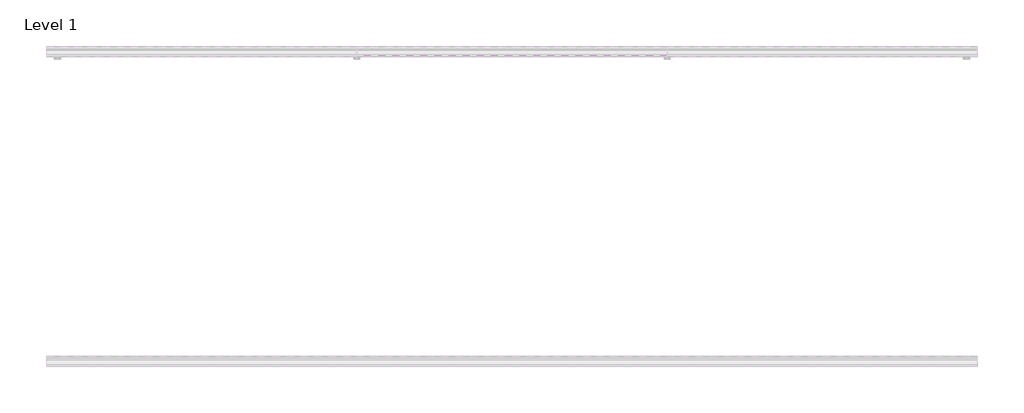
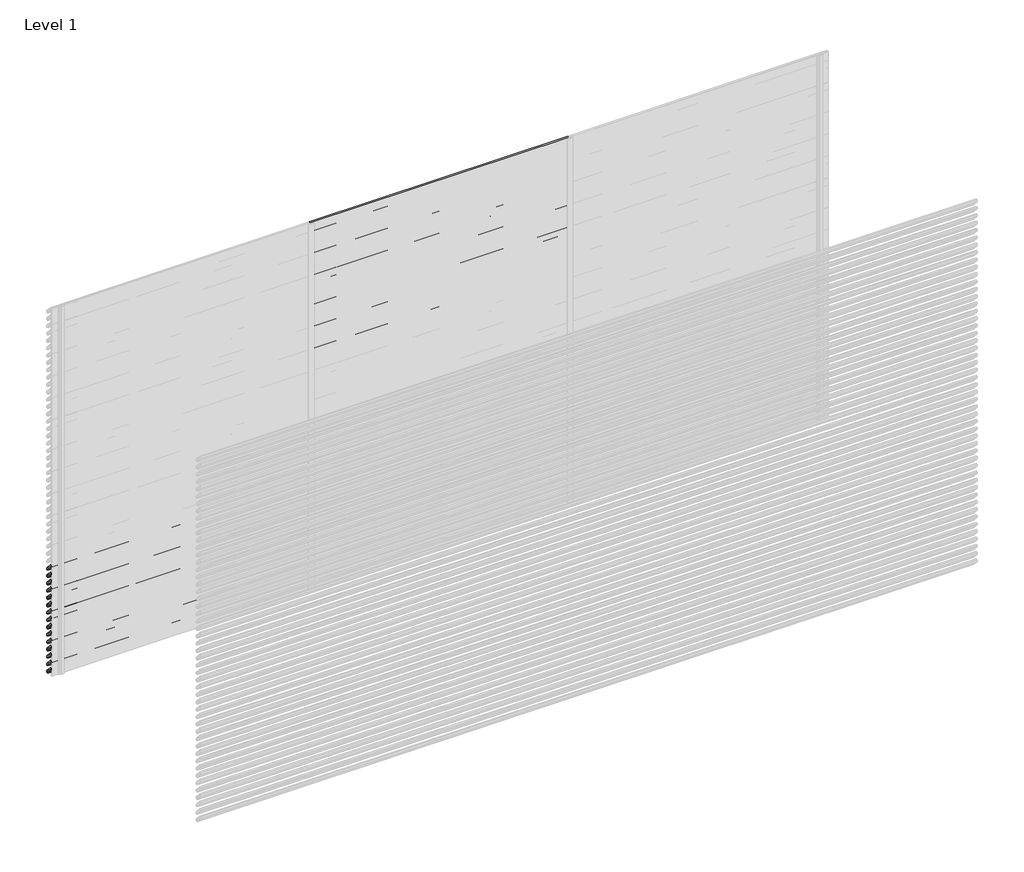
# One storey, part 97 of 153: 33 proxies.
"""IFC4 building model written with IfcOpenShell, lengths in millimetres."""

from ifc_helpers import new_model, si_unit, point, frame, frame_2d, origin, place, context, project, spatial, polyline, circle_curve, trimmed, segment, composite_curve, outline, extrude, element, save

model = new_model("IFC4")

# Units and contexts
model_context = context("Model", 3, world=origin())
ifc_project = project(units=[si_unit("LENGTHUNIT", "METRE", prefix="MILLI")], contexts=[model_context])

# Site, building, storey
site = spatial("IfcSite", under=ifc_project)
building = spatial("IfcBuilding", under=site)
storey = spatial("IfcBuildingStorey", under=building, Name="Level 1", Elevation=0.0)

# Proxies
placement = place(None, origin())
element("IfcBuildingElementProxy", 1, Name="Wall Sweeps", at=placement, inside=storey, context=model_context, shape_type="SweptSolid", body=[
    extrude(outline(composite_curve([segment(polyline([(43985.0540136, 900.0), (43999.874191, 898.7034025), (44049.0540136, 845.0102749), (44049.0540136, 833.6108187)]), True, "CONTINUOUS"), segment(trimmed(circle_curve(frame_2d((44045.7883652, 833.897153)), 3.2781774), [point((44049.0540136, 833.6108187))], [point((44046.4639442, 830.6893438))], False, "CARTESIAN"), True, "CONTINUOUS"), segment(polyline([(44046.4639442, 830.6893438), (44034.1895723, 831.6282758), (43985.0540136, 885.2730773), (43985.0540136, 900.0)]), True, "CONTINUOUS")], self_intersect=False), holes=[composite_curve([segment(polyline([(43999.1621773, 897.2599659), (43986.5540136, 898.3630372), (43986.5540136, 885.856213), (44034.8952036, 833.0786805), (44046.3312542, 832.2038762)]), True, "CONTINUOUS"), segment(trimmed(circle_curve(frame_2d((44045.7883652, 833.897153)), 1.7781774), [point((44046.3312542, 832.2038762))], [point((44047.5540136, 833.6864389))], True, "CARTESIAN"), True, "CONTINUOUS"), segment(polyline([(44047.5540136, 833.6864389), (44047.5540136, 844.4271392), (43999.1621773, 897.2599659)]), True, "CONTINUOUS")], self_intersect=False)]), frame((44966.6208097, 0.0, 0.0), z_axis=(1.0, 0.0, 0.0), x_axis=(0.0, 1.0, 0.0)), (0.0, 0.0, 1.0), 2000.0000001),
])
element("IfcBuildingElementProxy", 2, Name="Wall Sweeps", at=placement, inside=storey, context=model_context, shape_type="SweptSolid", body=[
    extrude(outline(composite_curve([segment(polyline([(43985.0540136, 840.0), (43999.874191, 838.7034025), (44049.0540136, 785.0102749), (44049.0540136, 773.6108187)]), True, "CONTINUOUS"), segment(trimmed(circle_curve(frame_2d((44045.7883652, 773.897153)), 3.2781774), [point((44049.0540136, 773.6108187))], [point((44046.4639442, 770.6893438))], False, "CARTESIAN"), True, "CONTINUOUS"), segment(polyline([(44046.4639442, 770.6893438), (44034.1895723, 771.6282758), (43985.0540136, 825.2730773), (43985.0540136, 840.0)]), True, "CONTINUOUS")], self_intersect=False), holes=[composite_curve([segment(polyline([(43999.1621773, 837.2599659), (43986.5540136, 838.3630372), (43986.5540136, 825.856213), (44034.8952036, 773.0786805), (44046.3312542, 772.2038762)]), True, "CONTINUOUS"), segment(trimmed(circle_curve(frame_2d((44045.7883652, 773.897153)), 1.7781774), [point((44046.3312542, 772.2038762))], [point((44047.5540136, 773.6864389))], True, "CARTESIAN"), True, "CONTINUOUS"), segment(polyline([(44047.5540136, 773.6864389), (44047.5540136, 784.4271392), (43999.1621773, 837.2599659)]), True, "CONTINUOUS")], self_intersect=False)]), frame((44966.6208097, 0.0, 0.0), z_axis=(1.0, 0.0, 0.0), x_axis=(0.0, 1.0, 0.0)), (0.0, 0.0, 1.0), 2000.0000001),
])
element("IfcBuildingElementProxy", 3, Name="Wall Sweeps", at=placement, inside=storey, context=model_context, shape_type="SweptSolid", body=[
    extrude(outline(composite_curve([segment(polyline([(43985.0540136, 780.0), (43999.874191, 778.7034025), (44049.0540136, 725.0102749), (44049.0540136, 713.6108187)]), True, "CONTINUOUS"), segment(trimmed(circle_curve(frame_2d((44045.7883652, 713.897153)), 3.2781774), [point((44049.0540136, 713.6108187))], [point((44046.4639442, 710.6893438))], False, "CARTESIAN"), True, "CONTINUOUS"), segment(polyline([(44046.4639442, 710.6893438), (44034.1895723, 711.6282758), (43985.0540136, 765.2730773), (43985.0540136, 780.0)]), True, "CONTINUOUS")], self_intersect=False), holes=[composite_curve([segment(polyline([(43999.1621773, 777.2599659), (43986.5540136, 778.3630372), (43986.5540136, 765.856213), (44034.8952036, 713.0786805), (44046.3312542, 712.2038762)]), True, "CONTINUOUS"), segment(trimmed(circle_curve(frame_2d((44045.7883652, 713.897153)), 1.7781774), [point((44046.3312542, 712.2038762))], [point((44047.5540136, 713.6864389))], True, "CARTESIAN"), True, "CONTINUOUS"), segment(polyline([(44047.5540136, 713.6864389), (44047.5540136, 724.4271392), (43999.1621773, 777.2599659)]), True, "CONTINUOUS")], self_intersect=False)]), frame((44966.6208097, 0.0, 0.0), z_axis=(1.0, 0.0, 0.0), x_axis=(0.0, 1.0, 0.0)), (0.0, 0.0, 1.0), 2000.0000001),
])
element("IfcBuildingElementProxy", 4, Name="Wall Sweeps", at=placement, inside=storey, context=model_context, shape_type="SweptSolid", body=[
    extrude(outline(composite_curve([segment(polyline([(43985.0540136, 720.0), (43999.874191, 718.7034025), (44049.0540136, 665.0102749), (44049.0540136, 653.6108187)]), True, "CONTINUOUS"), segment(trimmed(circle_curve(frame_2d((44045.7883652, 653.897153)), 3.2781774), [point((44049.0540136, 653.6108187))], [point((44046.4639442, 650.6893438))], False, "CARTESIAN"), True, "CONTINUOUS"), segment(polyline([(44046.4639442, 650.6893438), (44034.1895723, 651.6282758), (43985.0540136, 705.2730773), (43985.0540136, 720.0)]), True, "CONTINUOUS")], self_intersect=False), holes=[composite_curve([segment(polyline([(43999.1621773, 717.2599659), (43986.5540136, 718.3630372), (43986.5540136, 705.856213), (44034.8952036, 653.0786805), (44046.3312542, 652.2038762)]), True, "CONTINUOUS"), segment(trimmed(circle_curve(frame_2d((44045.7883652, 653.897153)), 1.7781774), [point((44046.3312542, 652.2038762))], [point((44047.5540136, 653.6864389))], True, "CARTESIAN"), True, "CONTINUOUS"), segment(polyline([(44047.5540136, 653.6864389), (44047.5540136, 664.4271392), (43999.1621773, 717.2599659)]), True, "CONTINUOUS")], self_intersect=False)]), frame((44966.6208097, 0.0, 0.0), z_axis=(1.0, 0.0, 0.0), x_axis=(0.0, 1.0, 0.0)), (0.0, 0.0, 1.0), 2000.0000001),
])
element("IfcBuildingElementProxy", 5, Name="Wall Sweeps", at=placement, inside=storey, context=model_context, shape_type="SweptSolid", body=[
    extrude(outline(composite_curve([segment(polyline([(43985.0540136, 660.0), (43999.874191, 658.7034025), (44049.0540136, 605.0102749), (44049.0540136, 593.6108187)]), True, "CONTINUOUS"), segment(trimmed(circle_curve(frame_2d((44045.7883652, 593.897153)), 3.2781774), [point((44049.0540136, 593.6108187))], [point((44046.4639442, 590.6893438))], False, "CARTESIAN"), True, "CONTINUOUS"), segment(polyline([(44046.4639442, 590.6893438), (44034.1895723, 591.6282758), (43985.0540136, 645.2730773), (43985.0540136, 660.0)]), True, "CONTINUOUS")], self_intersect=False), holes=[composite_curve([segment(polyline([(43999.1621773, 657.2599659), (43986.5540136, 658.3630372), (43986.5540136, 645.856213), (44034.8952036, 593.0786805), (44046.3312542, 592.2038762)]), True, "CONTINUOUS"), segment(trimmed(circle_curve(frame_2d((44045.7883652, 593.897153)), 1.7781774), [point((44046.3312542, 592.2038762))], [point((44047.5540136, 593.6864389))], True, "CARTESIAN"), True, "CONTINUOUS"), segment(polyline([(44047.5540136, 593.6864389), (44047.5540136, 604.4271392), (43999.1621773, 657.2599659)]), True, "CONTINUOUS")], self_intersect=False)]), frame((44966.6208097, 0.0, 0.0), z_axis=(1.0, 0.0, 0.0), x_axis=(0.0, 1.0, 0.0)), (0.0, 0.0, 1.0), 2000.0000001),
])
element("IfcBuildingElementProxy", 6, Name="Wall Sweeps", at=placement, inside=storey, context=model_context, shape_type="SweptSolid", body=[
    extrude(outline(composite_curve([segment(polyline([(43985.0540136, 600.0), (43999.874191, 598.7034025), (44049.0540136, 545.0102749), (44049.0540136, 533.6108187)]), True, "CONTINUOUS"), segment(trimmed(circle_curve(frame_2d((44045.7883652, 533.897153)), 3.2781774), [point((44049.0540136, 533.6108187))], [point((44046.4639442, 530.6893438))], False, "CARTESIAN"), True, "CONTINUOUS"), segment(polyline([(44046.4639442, 530.6893438), (44034.1895723, 531.6282758), (43985.0540136, 585.2730773), (43985.0540136, 600.0)]), True, "CONTINUOUS")], self_intersect=False), holes=[composite_curve([segment(polyline([(43999.1621773, 597.2599659), (43986.5540136, 598.3630372), (43986.5540136, 585.856213), (44034.8952036, 533.0786805), (44046.3312542, 532.2038762)]), True, "CONTINUOUS"), segment(trimmed(circle_curve(frame_2d((44045.7883652, 533.897153)), 1.7781774), [point((44046.3312542, 532.2038762))], [point((44047.5540136, 533.6864389))], True, "CARTESIAN"), True, "CONTINUOUS"), segment(polyline([(44047.5540136, 533.6864389), (44047.5540136, 544.4271392), (43999.1621773, 597.2599659)]), True, "CONTINUOUS")], self_intersect=False)]), frame((44966.6208097, 0.0, 0.0), z_axis=(1.0, 0.0, 0.0), x_axis=(0.0, 1.0, 0.0)), (0.0, 0.0, 1.0), 2000.0000001),
])
element("IfcBuildingElementProxy", 7, Name="Wall Sweeps", at=placement, inside=storey, context=model_context, shape_type="SweptSolid", body=[
    extrude(outline(composite_curve([segment(polyline([(43985.0540136, 540.0), (43999.874191, 538.7034025), (44049.0540136, 485.0102749), (44049.0540136, 473.6108187)]), True, "CONTINUOUS"), segment(trimmed(circle_curve(frame_2d((44045.7883652, 473.897153)), 3.2781774), [point((44049.0540136, 473.6108187))], [point((44046.4639442, 470.6893438))], False, "CARTESIAN"), True, "CONTINUOUS"), segment(polyline([(44046.4639442, 470.6893438), (44034.1895723, 471.6282758), (43985.0540136, 525.2730773), (43985.0540136, 540.0)]), True, "CONTINUOUS")], self_intersect=False), holes=[composite_curve([segment(polyline([(43999.1621773, 537.2599659), (43986.5540136, 538.3630372), (43986.5540136, 525.856213), (44034.8952036, 473.0786805), (44046.3312542, 472.2038762)]), True, "CONTINUOUS"), segment(trimmed(circle_curve(frame_2d((44045.7883652, 473.897153)), 1.7781774), [point((44046.3312542, 472.2038762))], [point((44047.5540136, 473.6864389))], True, "CARTESIAN"), True, "CONTINUOUS"), segment(polyline([(44047.5540136, 473.6864389), (44047.5540136, 484.4271392), (43999.1621773, 537.2599659)]), True, "CONTINUOUS")], self_intersect=False)]), frame((44966.6208097, 0.0, 0.0), z_axis=(1.0, 0.0, 0.0), x_axis=(0.0, 1.0, 0.0)), (0.0, 0.0, 1.0), 2000.0000001),
])
element("IfcBuildingElementProxy", 8, Name="Wall Sweeps", at=placement, inside=storey, context=model_context, shape_type="SweptSolid", body=[
    extrude(outline(composite_curve([segment(polyline([(43985.0540136, 480.0), (43999.874191, 478.7034025), (44049.0540136, 425.0102749), (44049.0540136, 413.6108187)]), True, "CONTINUOUS"), segment(trimmed(circle_curve(frame_2d((44045.7883652, 413.897153)), 3.2781774), [point((44049.0540136, 413.6108187))], [point((44046.4639442, 410.6893438))], False, "CARTESIAN"), True, "CONTINUOUS"), segment(polyline([(44046.4639442, 410.6893438), (44034.1895723, 411.6282758), (43985.0540136, 465.2730773), (43985.0540136, 480.0)]), True, "CONTINUOUS")], self_intersect=False), holes=[composite_curve([segment(polyline([(43999.1621773, 477.2599659), (43986.5540136, 478.3630372), (43986.5540136, 465.856213), (44034.8952036, 413.0786805), (44046.3312542, 412.2038762)]), True, "CONTINUOUS"), segment(trimmed(circle_curve(frame_2d((44045.7883652, 413.897153)), 1.7781774), [point((44046.3312542, 412.2038762))], [point((44047.5540136, 413.6864389))], True, "CARTESIAN"), True, "CONTINUOUS"), segment(polyline([(44047.5540136, 413.6864389), (44047.5540136, 424.4271392), (43999.1621773, 477.2599659)]), True, "CONTINUOUS")], self_intersect=False)]), frame((44966.6208097, 0.0, 0.0), z_axis=(1.0, 0.0, 0.0), x_axis=(0.0, 1.0, 0.0)), (0.0, 0.0, 1.0), 2000.0000001),
])
element("IfcBuildingElementProxy", 9, Name="Wall Sweeps", at=placement, inside=storey, context=model_context, shape_type="SweptSolid", body=[
    extrude(outline(composite_curve([segment(polyline([(43985.0540136, 420.0), (43999.874191, 418.7034025), (44049.0540136, 365.0102749), (44049.0540136, 353.6108187)]), True, "CONTINUOUS"), segment(trimmed(circle_curve(frame_2d((44045.7883652, 353.897153)), 3.2781774), [point((44049.0540136, 353.6108187))], [point((44046.4639442, 350.6893438))], False, "CARTESIAN"), True, "CONTINUOUS"), segment(polyline([(44046.4639442, 350.6893438), (44034.1895723, 351.6282758), (43985.0540136, 405.2730773), (43985.0540136, 420.0)]), True, "CONTINUOUS")], self_intersect=False), holes=[composite_curve([segment(polyline([(43999.1621773, 417.2599659), (43986.5540136, 418.3630372), (43986.5540136, 405.856213), (44034.8952036, 353.0786805), (44046.3312542, 352.2038762)]), True, "CONTINUOUS"), segment(trimmed(circle_curve(frame_2d((44045.7883652, 353.897153)), 1.7781774), [point((44046.3312542, 352.2038762))], [point((44047.5540136, 353.6864389))], True, "CARTESIAN"), True, "CONTINUOUS"), segment(polyline([(44047.5540136, 353.6864389), (44047.5540136, 364.4271392), (43999.1621773, 417.2599659)]), True, "CONTINUOUS")], self_intersect=False)]), frame((44966.6208097, 0.0, 0.0), z_axis=(1.0, 0.0, 0.0), x_axis=(0.0, 1.0, 0.0)), (0.0, 0.0, 1.0), 2000.0000001),
])
element("IfcBuildingElementProxy", 10, Name="Wall Sweeps", at=placement, inside=storey, context=model_context, shape_type="SweptSolid", body=[
    extrude(outline(composite_curve([segment(polyline([(43985.0540136, 360.0), (43999.874191, 358.7034025), (44049.0540136, 305.0102749), (44049.0540136, 293.6108187)]), True, "CONTINUOUS"), segment(trimmed(circle_curve(frame_2d((44045.7883652, 293.897153)), 3.2781774), [point((44049.0540136, 293.6108187))], [point((44046.4639442, 290.6893438))], False, "CARTESIAN"), True, "CONTINUOUS"), segment(polyline([(44046.4639442, 290.6893438), (44034.1895723, 291.6282758), (43985.0540136, 345.2730773), (43985.0540136, 360.0)]), True, "CONTINUOUS")], self_intersect=False), holes=[composite_curve([segment(polyline([(43999.1621773, 357.2599659), (43986.5540136, 358.3630372), (43986.5540136, 345.856213), (44034.8952036, 293.0786805), (44046.3312542, 292.2038762)]), True, "CONTINUOUS"), segment(trimmed(circle_curve(frame_2d((44045.7883652, 293.897153)), 1.7781774), [point((44046.3312542, 292.2038762))], [point((44047.5540136, 293.6864389))], True, "CARTESIAN"), True, "CONTINUOUS"), segment(polyline([(44047.5540136, 293.6864389), (44047.5540136, 304.4271392), (43999.1621773, 357.2599659)]), True, "CONTINUOUS")], self_intersect=False)]), frame((44966.6208097, 0.0, 0.0), z_axis=(1.0, 0.0, 0.0), x_axis=(0.0, 1.0, 0.0)), (0.0, 0.0, 1.0), 2000.0000001),
])
element("IfcBuildingElementProxy", 11, Name="Wall Sweeps", at=placement, inside=storey, context=model_context, shape_type="SweptSolid", body=[
    extrude(outline(composite_curve([segment(polyline([(43985.0540136, 300.0), (43999.874191, 298.7034025), (44049.0540136, 245.0102749), (44049.0540136, 233.6108187)]), True, "CONTINUOUS"), segment(trimmed(circle_curve(frame_2d((44045.7883652, 233.897153)), 3.2781774), [point((44049.0540136, 233.6108187))], [point((44046.4639442, 230.6893438))], False, "CARTESIAN"), True, "CONTINUOUS"), segment(polyline([(44046.4639442, 230.6893438), (44034.1895723, 231.6282758), (43985.0540136, 285.2730773), (43985.0540136, 300.0)]), True, "CONTINUOUS")], self_intersect=False), holes=[composite_curve([segment(polyline([(43999.1621773, 297.2599659), (43986.5540136, 298.3630372), (43986.5540136, 285.856213), (44034.8952036, 233.0786805), (44046.3312542, 232.2038762)]), True, "CONTINUOUS"), segment(trimmed(circle_curve(frame_2d((44045.7883652, 233.897153)), 1.7781774), [point((44046.3312542, 232.2038762))], [point((44047.5540136, 233.6864389))], True, "CARTESIAN"), True, "CONTINUOUS"), segment(polyline([(44047.5540136, 233.6864389), (44047.5540136, 244.4271392), (43999.1621773, 297.2599659)]), True, "CONTINUOUS")], self_intersect=False)]), frame((44966.6208097, 0.0, 0.0), z_axis=(1.0, 0.0, 0.0), x_axis=(0.0, 1.0, 0.0)), (0.0, 0.0, 1.0), 2000.0000001),
])
element("IfcBuildingElementProxy", 12, Name="Wall Sweeps", at=placement, inside=storey, context=model_context, shape_type="SweptSolid", body=[
    extrude(outline(composite_curve([segment(polyline([(43985.0540136, 240.0), (43999.874191, 238.7034025), (44049.0540136, 185.0102749), (44049.0540136, 173.6108187)]), True, "CONTINUOUS"), segment(trimmed(circle_curve(frame_2d((44045.7883652, 173.897153)), 3.2781774), [point((44049.0540136, 173.6108187))], [point((44046.4639442, 170.6893438))], False, "CARTESIAN"), True, "CONTINUOUS"), segment(polyline([(44046.4639442, 170.6893438), (44034.1895723, 171.6282758), (43985.0540136, 225.2730773), (43985.0540136, 240.0)]), True, "CONTINUOUS")], self_intersect=False), holes=[composite_curve([segment(polyline([(43999.1621773, 237.2599659), (43986.5540136, 238.3630372), (43986.5540136, 225.856213), (44034.8952036, 173.0786805), (44046.3312542, 172.2038762)]), True, "CONTINUOUS"), segment(trimmed(circle_curve(frame_2d((44045.7883652, 173.897153)), 1.7781774), [point((44046.3312542, 172.2038762))], [point((44047.5540136, 173.6864389))], True, "CARTESIAN"), True, "CONTINUOUS"), segment(polyline([(44047.5540136, 173.6864389), (44047.5540136, 184.4271392), (43999.1621773, 237.2599659)]), True, "CONTINUOUS")], self_intersect=False)]), frame((44966.6208097, 0.0, 0.0), z_axis=(1.0, 0.0, 0.0), x_axis=(0.0, 1.0, 0.0)), (0.0, 0.0, 1.0), 2000.0000001),
])
element("IfcBuildingElementProxy", 13, Name="Wall Sweeps", at=placement, inside=storey, context=model_context, shape_type="SweptSolid", body=[
    extrude(outline(composite_curve([segment(polyline([(43985.0540136, 180.0), (43999.874191, 178.7034025), (44049.0540136, 125.0102749), (44049.0540136, 113.6108187)]), True, "CONTINUOUS"), segment(trimmed(circle_curve(frame_2d((44045.7883652, 113.897153)), 3.2781774), [point((44049.0540136, 113.6108187))], [point((44046.4639442, 110.6893438))], False, "CARTESIAN"), True, "CONTINUOUS"), segment(polyline([(44046.4639442, 110.6893438), (44034.1895723, 111.6282758), (43985.0540136, 165.2730773), (43985.0540136, 180.0)]), True, "CONTINUOUS")], self_intersect=False), holes=[composite_curve([segment(polyline([(43999.1621773, 177.2599659), (43986.5540136, 178.3630372), (43986.5540136, 165.856213), (44034.8952036, 113.0786805), (44046.3312542, 112.2038762)]), True, "CONTINUOUS"), segment(trimmed(circle_curve(frame_2d((44045.7883652, 113.897153)), 1.7781774), [point((44046.3312542, 112.2038762))], [point((44047.5540136, 113.6864389))], True, "CARTESIAN"), True, "CONTINUOUS"), segment(polyline([(44047.5540136, 113.6864389), (44047.5540136, 124.4271392), (43999.1621773, 177.2599659)]), True, "CONTINUOUS")], self_intersect=False)]), frame((44966.6208097, 0.0, 0.0), z_axis=(1.0, 0.0, 0.0), x_axis=(0.0, 1.0, 0.0)), (0.0, 0.0, 1.0), 2000.0000001),
])
element("IfcBuildingElementProxy", 14, Name="Wall Sweeps", at=placement, inside=storey, context=model_context, shape_type="SweptSolid", body=[
    extrude(outline(composite_curve([segment(polyline([(43985.0540136, 120.0), (43999.874191, 118.7034025), (44049.0540136, 65.0102749), (44049.0540136, 53.6108187)]), True, "CONTINUOUS"), segment(trimmed(circle_curve(frame_2d((44045.7883652, 53.897153)), 3.2781774), [point((44049.0540136, 53.6108187))], [point((44046.4639442, 50.6893438))], False, "CARTESIAN"), True, "CONTINUOUS"), segment(polyline([(44046.4639442, 50.6893438), (44034.1895723, 51.6282758), (43985.0540136, 105.2730773), (43985.0540136, 120.0)]), True, "CONTINUOUS")], self_intersect=False), holes=[composite_curve([segment(polyline([(43999.1621773, 117.2599659), (43986.5540136, 118.3630372), (43986.5540136, 105.856213), (44034.8952036, 53.0786805), (44046.3312542, 52.2038762)]), True, "CONTINUOUS"), segment(trimmed(circle_curve(frame_2d((44045.7883652, 53.897153)), 1.7781774), [point((44046.3312542, 52.2038762))], [point((44047.5540136, 53.6864389))], True, "CARTESIAN"), True, "CONTINUOUS"), segment(polyline([(44047.5540136, 53.6864389), (44047.5540136, 64.4271392), (43999.1621773, 117.2599659)]), True, "CONTINUOUS")], self_intersect=False)]), frame((44966.6208097, 0.0, 0.0), z_axis=(1.0, 0.0, 0.0), x_axis=(0.0, 1.0, 0.0)), (0.0, 0.0, 1.0), 2000.0000001),
])
element("IfcBuildingElementProxy", 15, Name="Wall Sweeps", at=placement, inside=storey, context=model_context, shape_type="SweptSolid", body=[
    extrude(outline(composite_curve([segment(polyline([(43985.0540136, 60.0), (43999.874191, 58.7034025), (44049.0540136, 5.0102749), (44049.0540136, -6.3891813)]), True, "CONTINUOUS"), segment(trimmed(circle_curve(frame_2d((44045.7883652, -6.102847)), 3.2781774), [point((44049.0540136, -6.3891813))], [point((44046.4639442, -9.3106562))], False, "CARTESIAN"), True, "CONTINUOUS"), segment(polyline([(44046.4639442, -9.3106562), (44034.1895723, -8.3717242), (43985.0540136, 45.2730773), (43985.0540136, 60.0)]), True, "CONTINUOUS")], self_intersect=False), holes=[composite_curve([segment(polyline([(43999.1621773, 57.2599659), (43986.5540136, 58.3630372), (43986.5540136, 45.856213), (44034.8952036, -6.9213195), (44046.3312542, -7.7961238)]), True, "CONTINUOUS"), segment(trimmed(circle_curve(frame_2d((44045.7883652, -6.102847)), 1.7781774), [point((44046.3312542, -7.7961238))], [point((44047.5540136, -6.3135611))], True, "CARTESIAN"), True, "CONTINUOUS"), segment(polyline([(44047.5540136, -6.3135611), (44047.5540136, 4.4271392), (43999.1621773, 57.2599659)]), True, "CONTINUOUS")], self_intersect=False)]), frame((44966.6208097, 0.0, 0.0), z_axis=(1.0, 0.0, 0.0), x_axis=(0.0, 1.0, 0.0)), (0.0, 0.0, 1.0), 2000.0000001),
])
element("IfcBuildingElementProxy", 16, Name="Wall Sweeps", at=placement, inside=storey, context=model_context, shape_type="SweptSolid", body=[
    extrude(outline(composite_curve([segment(polyline([(43985.0540136, 3000.0), (43999.874191, 2998.7034025), (44049.0540136, 2945.0102749), (44049.0540136, 2933.6108187)]), True, "CONTINUOUS"), segment(trimmed(circle_curve(frame_2d((44045.7883652, 2933.897153)), 3.2781774), [point((44049.0540136, 2933.6108187))], [point((44046.4639442, 2930.6893438))], False, "CARTESIAN"), True, "CONTINUOUS"), segment(polyline([(44046.4639442, 2930.6893438), (44034.1895723, 2931.6282758), (43985.0540136, 2985.2730773), (43985.0540136, 3000.0)]), True, "CONTINUOUS")], self_intersect=False), holes=[composite_curve([segment(polyline([(43999.1621773, 2997.2599659), (43986.5540136, 2998.3630372), (43986.5540136, 2985.856213), (44034.8952036, 2933.0786805), (44046.3312542, 2932.2038762)]), True, "CONTINUOUS"), segment(trimmed(circle_curve(frame_2d((44045.7883652, 2933.897153)), 1.7781774), [point((44046.3312542, 2932.2038762))], [point((44047.5540136, 2933.6864389))], True, "CARTESIAN"), True, "CONTINUOUS"), segment(polyline([(44047.5540136, 2933.6864389), (44047.5540136, 2944.4271392), (43999.1621773, 2997.2599659)]), True, "CONTINUOUS")], self_intersect=False)]), frame((46966.6208098, 0.0, 0.0), z_axis=(1.0, 0.0, 0.0), x_axis=(0.0, 1.0, 0.0)), (0.0, 0.0, 1.0), 1999.9999998),
])
element("IfcBuildingElementProxy", 17, Name="Wall Sweeps", at=placement, inside=storey, context=model_context, shape_type="SweptSolid", body=[
    extrude(outline(composite_curve([segment(polyline([(43985.0540136, 2940.0), (43999.874191, 2938.7034025), (44049.0540136, 2885.0102749), (44049.0540136, 2873.6108187)]), True, "CONTINUOUS"), segment(trimmed(circle_curve(frame_2d((44045.7883652, 2873.897153)), 3.2781774), [point((44049.0540136, 2873.6108187))], [point((44046.4639442, 2870.6893438))], False, "CARTESIAN"), True, "CONTINUOUS"), segment(polyline([(44046.4639442, 2870.6893438), (44034.1895723, 2871.6282758), (43985.0540136, 2925.2730773), (43985.0540136, 2940.0)]), True, "CONTINUOUS")], self_intersect=False), holes=[composite_curve([segment(polyline([(43999.1621773, 2937.2599659), (43986.5540136, 2938.3630372), (43986.5540136, 2925.856213), (44034.8952036, 2873.0786805), (44046.3312542, 2872.2038762)]), True, "CONTINUOUS"), segment(trimmed(circle_curve(frame_2d((44045.7883652, 2873.897153)), 1.7781774), [point((44046.3312542, 2872.2038762))], [point((44047.5540136, 2873.6864389))], True, "CARTESIAN"), True, "CONTINUOUS"), segment(polyline([(44047.5540136, 2873.6864389), (44047.5540136, 2884.4271392), (43999.1621773, 2937.2599659)]), True, "CONTINUOUS")], self_intersect=False)]), frame((46966.6208098, 0.0, 0.0), z_axis=(1.0, 0.0, 0.0), x_axis=(0.0, 1.0, 0.0)), (0.0, 0.0, 1.0), 1999.9999998),
])
element("IfcBuildingElementProxy", 18, Name="Wall Sweeps", at=placement, inside=storey, context=model_context, shape_type="SweptSolid", body=[
    extrude(outline(composite_curve([segment(polyline([(43985.0540136, 2880.0), (43999.874191, 2878.7034025), (44049.0540136, 2825.0102749), (44049.0540136, 2813.6108187)]), True, "CONTINUOUS"), segment(trimmed(circle_curve(frame_2d((44045.7883652, 2813.897153)), 3.2781774), [point((44049.0540136, 2813.6108187))], [point((44046.4639442, 2810.6893438))], False, "CARTESIAN"), True, "CONTINUOUS"), segment(polyline([(44046.4639442, 2810.6893438), (44034.1895723, 2811.6282758), (43985.0540136, 2865.2730773), (43985.0540136, 2880.0)]), True, "CONTINUOUS")], self_intersect=False), holes=[composite_curve([segment(polyline([(43999.1621773, 2877.2599659), (43986.5540136, 2878.3630372), (43986.5540136, 2865.856213), (44034.8952036, 2813.0786805), (44046.3312542, 2812.2038762)]), True, "CONTINUOUS"), segment(trimmed(circle_curve(frame_2d((44045.7883652, 2813.897153)), 1.7781774), [point((44046.3312542, 2812.2038762))], [point((44047.5540136, 2813.6864389))], True, "CARTESIAN"), True, "CONTINUOUS"), segment(polyline([(44047.5540136, 2813.6864389), (44047.5540136, 2824.4271392), (43999.1621773, 2877.2599659)]), True, "CONTINUOUS")], self_intersect=False)]), frame((46966.6208098, 0.0, 0.0), z_axis=(1.0, 0.0, 0.0), x_axis=(0.0, 1.0, 0.0)), (0.0, 0.0, 1.0), 1999.9999998),
])
element("IfcBuildingElementProxy", 19, Name="Wall Sweeps", at=placement, inside=storey, context=model_context, shape_type="SweptSolid", body=[
    extrude(outline(composite_curve([segment(polyline([(43985.0540136, 2820.0), (43999.874191, 2818.7034025), (44049.0540136, 2765.0102749), (44049.0540136, 2753.6108187)]), True, "CONTINUOUS"), segment(trimmed(circle_curve(frame_2d((44045.7883652, 2753.897153)), 3.2781774), [point((44049.0540136, 2753.6108187))], [point((44046.4639442, 2750.6893438))], False, "CARTESIAN"), True, "CONTINUOUS"), segment(polyline([(44046.4639442, 2750.6893438), (44034.1895723, 2751.6282758), (43985.0540136, 2805.2730773), (43985.0540136, 2820.0)]), True, "CONTINUOUS")], self_intersect=False), holes=[composite_curve([segment(polyline([(43999.1621773, 2817.2599659), (43986.5540136, 2818.3630372), (43986.5540136, 2805.856213), (44034.8952036, 2753.0786805), (44046.3312542, 2752.2038762)]), True, "CONTINUOUS"), segment(trimmed(circle_curve(frame_2d((44045.7883652, 2753.897153)), 1.7781774), [point((44046.3312542, 2752.2038762))], [point((44047.5540136, 2753.6864389))], True, "CARTESIAN"), True, "CONTINUOUS"), segment(polyline([(44047.5540136, 2753.6864389), (44047.5540136, 2764.4271392), (43999.1621773, 2817.2599659)]), True, "CONTINUOUS")], self_intersect=False)]), frame((46966.6208098, 0.0, 0.0), z_axis=(1.0, 0.0, 0.0), x_axis=(0.0, 1.0, 0.0)), (0.0, 0.0, 1.0), 1999.9999998),
])
element("IfcBuildingElementProxy", 20, Name="Wall Sweeps", at=placement, inside=storey, context=model_context, shape_type="SweptSolid", body=[
    extrude(outline(composite_curve([segment(polyline([(43985.0540136, 2760.0), (43999.874191, 2758.7034025), (44049.0540136, 2705.0102749), (44049.0540136, 2693.6108187)]), True, "CONTINUOUS"), segment(trimmed(circle_curve(frame_2d((44045.7883652, 2693.897153)), 3.2781774), [point((44049.0540136, 2693.6108187))], [point((44046.4639442, 2690.6893438))], False, "CARTESIAN"), True, "CONTINUOUS"), segment(polyline([(44046.4639442, 2690.6893438), (44034.1895723, 2691.6282758), (43985.0540136, 2745.2730773), (43985.0540136, 2760.0)]), True, "CONTINUOUS")], self_intersect=False), holes=[composite_curve([segment(polyline([(43999.1621773, 2757.2599659), (43986.5540136, 2758.3630372), (43986.5540136, 2745.856213), (44034.8952036, 2693.0786805), (44046.3312542, 2692.2038762)]), True, "CONTINUOUS"), segment(trimmed(circle_curve(frame_2d((44045.7883652, 2693.897153)), 1.7781774), [point((44046.3312542, 2692.2038762))], [point((44047.5540136, 2693.6864389))], True, "CARTESIAN"), True, "CONTINUOUS"), segment(polyline([(44047.5540136, 2693.6864389), (44047.5540136, 2704.4271392), (43999.1621773, 2757.2599659)]), True, "CONTINUOUS")], self_intersect=False)]), frame((46966.6208098, 0.0, 0.0), z_axis=(1.0, 0.0, 0.0), x_axis=(0.0, 1.0, 0.0)), (0.0, 0.0, 1.0), 1999.9999998),
])
element("IfcBuildingElementProxy", 21, Name="Wall Sweeps", at=placement, inside=storey, context=model_context, shape_type="SweptSolid", body=[
    extrude(outline(composite_curve([segment(polyline([(43985.0540136, 2700.0), (43999.874191, 2698.7034025), (44049.0540136, 2645.0102749), (44049.0540136, 2633.6108187)]), True, "CONTINUOUS"), segment(trimmed(circle_curve(frame_2d((44045.7883652, 2633.897153)), 3.2781774), [point((44049.0540136, 2633.6108187))], [point((44046.4639442, 2630.6893438))], False, "CARTESIAN"), True, "CONTINUOUS"), segment(polyline([(44046.4639442, 2630.6893438), (44034.1895723, 2631.6282758), (43985.0540136, 2685.2730773), (43985.0540136, 2700.0)]), True, "CONTINUOUS")], self_intersect=False), holes=[composite_curve([segment(polyline([(43999.1621773, 2697.2599659), (43986.5540136, 2698.3630372), (43986.5540136, 2685.856213), (44034.8952036, 2633.0786805), (44046.3312542, 2632.2038762)]), True, "CONTINUOUS"), segment(trimmed(circle_curve(frame_2d((44045.7883652, 2633.897153)), 1.7781774), [point((44046.3312542, 2632.2038762))], [point((44047.5540136, 2633.6864389))], True, "CARTESIAN"), True, "CONTINUOUS"), segment(polyline([(44047.5540136, 2633.6864389), (44047.5540136, 2644.4271392), (43999.1621773, 2697.2599659)]), True, "CONTINUOUS")], self_intersect=False)]), frame((46966.6208098, 0.0, 0.0), z_axis=(1.0, 0.0, 0.0), x_axis=(0.0, 1.0, 0.0)), (0.0, 0.0, 1.0), 1999.9999998),
])
element("IfcBuildingElementProxy", 22, Name="Wall Sweeps", at=placement, inside=storey, context=model_context, shape_type="SweptSolid", body=[
    extrude(outline(composite_curve([segment(polyline([(43985.0540136, 2640.0), (43999.874191, 2638.7034025), (44049.0540136, 2585.0102749), (44049.0540136, 2573.6108187)]), True, "CONTINUOUS"), segment(trimmed(circle_curve(frame_2d((44045.7883652, 2573.897153)), 3.2781774), [point((44049.0540136, 2573.6108187))], [point((44046.4639442, 2570.6893438))], False, "CARTESIAN"), True, "CONTINUOUS"), segment(polyline([(44046.4639442, 2570.6893438), (44034.1895723, 2571.6282758), (43985.0540136, 2625.2730773), (43985.0540136, 2640.0)]), True, "CONTINUOUS")], self_intersect=False), holes=[composite_curve([segment(polyline([(43999.1621773, 2637.2599659), (43986.5540136, 2638.3630372), (43986.5540136, 2625.856213), (44034.8952036, 2573.0786805), (44046.3312542, 2572.2038762)]), True, "CONTINUOUS"), segment(trimmed(circle_curve(frame_2d((44045.7883652, 2573.897153)), 1.7781774), [point((44046.3312542, 2572.2038762))], [point((44047.5540136, 2573.6864389))], True, "CARTESIAN"), True, "CONTINUOUS"), segment(polyline([(44047.5540136, 2573.6864389), (44047.5540136, 2584.4271392), (43999.1621773, 2637.2599659)]), True, "CONTINUOUS")], self_intersect=False)]), frame((46966.6208098, 0.0, 0.0), z_axis=(1.0, 0.0, 0.0), x_axis=(0.0, 1.0, 0.0)), (0.0, 0.0, 1.0), 1999.9999998),
])
element("IfcBuildingElementProxy", 23, Name="Wall Sweeps", at=placement, inside=storey, context=model_context, shape_type="SweptSolid", body=[
    extrude(outline(composite_curve([segment(polyline([(43985.0540136, 2580.0), (43999.874191, 2578.7034025), (44049.0540136, 2525.0102749), (44049.0540136, 2513.6108187)]), True, "CONTINUOUS"), segment(trimmed(circle_curve(frame_2d((44045.7883652, 2513.897153)), 3.2781774), [point((44049.0540136, 2513.6108187))], [point((44046.4639442, 2510.6893438))], False, "CARTESIAN"), True, "CONTINUOUS"), segment(polyline([(44046.4639442, 2510.6893438), (44034.1895723, 2511.6282758), (43985.0540136, 2565.2730773), (43985.0540136, 2580.0)]), True, "CONTINUOUS")], self_intersect=False), holes=[composite_curve([segment(polyline([(43999.1621773, 2577.2599659), (43986.5540136, 2578.3630372), (43986.5540136, 2565.856213), (44034.8952036, 2513.0786805), (44046.3312542, 2512.2038762)]), True, "CONTINUOUS"), segment(trimmed(circle_curve(frame_2d((44045.7883652, 2513.897153)), 1.7781774), [point((44046.3312542, 2512.2038762))], [point((44047.5540136, 2513.6864389))], True, "CARTESIAN"), True, "CONTINUOUS"), segment(polyline([(44047.5540136, 2513.6864389), (44047.5540136, 2524.4271392), (43999.1621773, 2577.2599659)]), True, "CONTINUOUS")], self_intersect=False)]), frame((46966.6208098, 0.0, 0.0), z_axis=(1.0, 0.0, 0.0), x_axis=(0.0, 1.0, 0.0)), (0.0, 0.0, 1.0), 1999.9999998),
])
element("IfcBuildingElementProxy", 24, Name="Wall Sweeps", at=placement, inside=storey, context=model_context, shape_type="SweptSolid", body=[
    extrude(outline(composite_curve([segment(polyline([(43985.0540136, 2520.0), (43999.874191, 2518.7034025), (44049.0540136, 2465.0102749), (44049.0540136, 2453.6108187)]), True, "CONTINUOUS"), segment(trimmed(circle_curve(frame_2d((44045.7883652, 2453.897153)), 3.2781774), [point((44049.0540136, 2453.6108187))], [point((44046.4639442, 2450.6893438))], False, "CARTESIAN"), True, "CONTINUOUS"), segment(polyline([(44046.4639442, 2450.6893438), (44034.1895723, 2451.6282758), (43985.0540136, 2505.2730773), (43985.0540136, 2520.0)]), True, "CONTINUOUS")], self_intersect=False), holes=[composite_curve([segment(polyline([(43999.1621773, 2517.2599659), (43986.5540136, 2518.3630372), (43986.5540136, 2505.856213), (44034.8952036, 2453.0786805), (44046.3312542, 2452.2038762)]), True, "CONTINUOUS"), segment(trimmed(circle_curve(frame_2d((44045.7883652, 2453.897153)), 1.7781774), [point((44046.3312542, 2452.2038762))], [point((44047.5540136, 2453.6864389))], True, "CARTESIAN"), True, "CONTINUOUS"), segment(polyline([(44047.5540136, 2453.6864389), (44047.5540136, 2464.4271392), (43999.1621773, 2517.2599659)]), True, "CONTINUOUS")], self_intersect=False)]), frame((46966.6208098, 0.0, 0.0), z_axis=(1.0, 0.0, 0.0), x_axis=(0.0, 1.0, 0.0)), (0.0, 0.0, 1.0), 1999.9999998),
])
element("IfcBuildingElementProxy", 25, Name="Wall Sweeps", at=placement, inside=storey, context=model_context, shape_type="SweptSolid", body=[
    extrude(outline(composite_curve([segment(polyline([(43985.0540136, 2460.0), (43999.874191, 2458.7034025), (44049.0540136, 2405.0102749), (44049.0540136, 2393.6108187)]), True, "CONTINUOUS"), segment(trimmed(circle_curve(frame_2d((44045.7883652, 2393.897153)), 3.2781774), [point((44049.0540136, 2393.6108187))], [point((44046.4639442, 2390.6893438))], False, "CARTESIAN"), True, "CONTINUOUS"), segment(polyline([(44046.4639442, 2390.6893438), (44034.1895723, 2391.6282758), (43985.0540136, 2445.2730773), (43985.0540136, 2460.0)]), True, "CONTINUOUS")], self_intersect=False), holes=[composite_curve([segment(polyline([(43999.1621773, 2457.2599659), (43986.5540136, 2458.3630372), (43986.5540136, 2445.856213), (44034.8952036, 2393.0786805), (44046.3312542, 2392.2038762)]), True, "CONTINUOUS"), segment(trimmed(circle_curve(frame_2d((44045.7883652, 2393.897153)), 1.7781774), [point((44046.3312542, 2392.2038762))], [point((44047.5540136, 2393.6864389))], True, "CARTESIAN"), True, "CONTINUOUS"), segment(polyline([(44047.5540136, 2393.6864389), (44047.5540136, 2404.4271392), (43999.1621773, 2457.2599659)]), True, "CONTINUOUS")], self_intersect=False)]), frame((46966.6208098, 0.0, 0.0), z_axis=(1.0, 0.0, 0.0), x_axis=(0.0, 1.0, 0.0)), (0.0, 0.0, 1.0), 1999.9999998),
])
element("IfcBuildingElementProxy", 26, Name="Wall Sweeps", at=placement, inside=storey, context=model_context, shape_type="SweptSolid", body=[
    extrude(outline(composite_curve([segment(polyline([(43985.0540136, 2400.0), (43999.874191, 2398.7034025), (44049.0540136, 2345.0102749), (44049.0540136, 2333.6108187)]), True, "CONTINUOUS"), segment(trimmed(circle_curve(frame_2d((44045.7883652, 2333.897153)), 3.2781774), [point((44049.0540136, 2333.6108187))], [point((44046.4639442, 2330.6893438))], False, "CARTESIAN"), True, "CONTINUOUS"), segment(polyline([(44046.4639442, 2330.6893438), (44034.1895723, 2331.6282758), (43985.0540136, 2385.2730773), (43985.0540136, 2400.0)]), True, "CONTINUOUS")], self_intersect=False), holes=[composite_curve([segment(polyline([(43999.1621773, 2397.2599659), (43986.5540136, 2398.3630372), (43986.5540136, 2385.856213), (44034.8952036, 2333.0786805), (44046.3312542, 2332.2038762)]), True, "CONTINUOUS"), segment(trimmed(circle_curve(frame_2d((44045.7883652, 2333.897153)), 1.7781774), [point((44046.3312542, 2332.2038762))], [point((44047.5540136, 2333.6864389))], True, "CARTESIAN"), True, "CONTINUOUS"), segment(polyline([(44047.5540136, 2333.6864389), (44047.5540136, 2344.4271392), (43999.1621773, 2397.2599659)]), True, "CONTINUOUS")], self_intersect=False)]), frame((46966.6208098, 0.0, 0.0), z_axis=(1.0, 0.0, 0.0), x_axis=(0.0, 1.0, 0.0)), (0.0, 0.0, 1.0), 1999.9999998),
])
element("IfcBuildingElementProxy", 27, Name="Wall Sweeps", at=placement, inside=storey, context=model_context, shape_type="SweptSolid", body=[
    extrude(outline(composite_curve([segment(polyline([(43985.0540136, 2340.0), (43999.874191, 2338.7034025), (44049.0540136, 2285.0102749), (44049.0540136, 2273.6108187)]), True, "CONTINUOUS"), segment(trimmed(circle_curve(frame_2d((44045.7883652, 2273.897153)), 3.2781774), [point((44049.0540136, 2273.6108187))], [point((44046.4639442, 2270.6893438))], False, "CARTESIAN"), True, "CONTINUOUS"), segment(polyline([(44046.4639442, 2270.6893438), (44034.1895723, 2271.6282758), (43985.0540136, 2325.2730773), (43985.0540136, 2340.0)]), True, "CONTINUOUS")], self_intersect=False), holes=[composite_curve([segment(polyline([(43999.1621773, 2337.2599659), (43986.5540136, 2338.3630372), (43986.5540136, 2325.856213), (44034.8952036, 2273.0786805), (44046.3312542, 2272.2038762)]), True, "CONTINUOUS"), segment(trimmed(circle_curve(frame_2d((44045.7883652, 2273.897153)), 1.7781774), [point((44046.3312542, 2272.2038762))], [point((44047.5540136, 2273.6864389))], True, "CARTESIAN"), True, "CONTINUOUS"), segment(polyline([(44047.5540136, 2273.6864389), (44047.5540136, 2284.4271392), (43999.1621773, 2337.2599659)]), True, "CONTINUOUS")], self_intersect=False)]), frame((46966.6208098, 0.0, 0.0), z_axis=(1.0, 0.0, 0.0), x_axis=(0.0, 1.0, 0.0)), (0.0, 0.0, 1.0), 1999.9999998),
])
element("IfcBuildingElementProxy", 28, Name="Wall Sweeps", at=placement, inside=storey, context=model_context, shape_type="SweptSolid", body=[
    extrude(outline(composite_curve([segment(polyline([(43985.0540136, 2280.0), (43999.874191, 2278.7034025), (44049.0540136, 2225.0102749), (44049.0540136, 2213.6108187)]), True, "CONTINUOUS"), segment(trimmed(circle_curve(frame_2d((44045.7883652, 2213.897153)), 3.2781774), [point((44049.0540136, 2213.6108187))], [point((44046.4639442, 2210.6893438))], False, "CARTESIAN"), True, "CONTINUOUS"), segment(polyline([(44046.4639442, 2210.6893438), (44034.1895723, 2211.6282758), (43985.0540136, 2265.2730773), (43985.0540136, 2280.0)]), True, "CONTINUOUS")], self_intersect=False), holes=[composite_curve([segment(polyline([(43999.1621773, 2277.2599659), (43986.5540136, 2278.3630372), (43986.5540136, 2265.856213), (44034.8952036, 2213.0786805), (44046.3312542, 2212.2038762)]), True, "CONTINUOUS"), segment(trimmed(circle_curve(frame_2d((44045.7883652, 2213.897153)), 1.7781774), [point((44046.3312542, 2212.2038762))], [point((44047.5540136, 2213.6864389))], True, "CARTESIAN"), True, "CONTINUOUS"), segment(polyline([(44047.5540136, 2213.6864389), (44047.5540136, 2224.4271392), (43999.1621773, 2277.2599659)]), True, "CONTINUOUS")], self_intersect=False)]), frame((46966.6208098, 0.0, 0.0), z_axis=(1.0, 0.0, 0.0), x_axis=(0.0, 1.0, 0.0)), (0.0, 0.0, 1.0), 1999.9999998),
])
element("IfcBuildingElementProxy", 29, Name="Wall Sweeps", at=placement, inside=storey, context=model_context, shape_type="SweptSolid", body=[
    extrude(outline(composite_curve([segment(polyline([(43985.0540136, 2220.0), (43999.874191, 2218.7034025), (44049.0540136, 2165.0102749), (44049.0540136, 2153.6108187)]), True, "CONTINUOUS"), segment(trimmed(circle_curve(frame_2d((44045.7883652, 2153.897153)), 3.2781774), [point((44049.0540136, 2153.6108187))], [point((44046.4639442, 2150.6893438))], False, "CARTESIAN"), True, "CONTINUOUS"), segment(polyline([(44046.4639442, 2150.6893438), (44034.1895723, 2151.6282758), (43985.0540136, 2205.2730773), (43985.0540136, 2220.0)]), True, "CONTINUOUS")], self_intersect=False), holes=[composite_curve([segment(polyline([(43999.1621773, 2217.2599659), (43986.5540136, 2218.3630372), (43986.5540136, 2205.856213), (44034.8952036, 2153.0786805), (44046.3312542, 2152.2038762)]), True, "CONTINUOUS"), segment(trimmed(circle_curve(frame_2d((44045.7883652, 2153.897153)), 1.7781774), [point((44046.3312542, 2152.2038762))], [point((44047.5540136, 2153.6864389))], True, "CARTESIAN"), True, "CONTINUOUS"), segment(polyline([(44047.5540136, 2153.6864389), (44047.5540136, 2164.4271392), (43999.1621773, 2217.2599659)]), True, "CONTINUOUS")], self_intersect=False)]), frame((46966.6208098, 0.0, 0.0), z_axis=(1.0, 0.0, 0.0), x_axis=(0.0, 1.0, 0.0)), (0.0, 0.0, 1.0), 1999.9999998),
])
element("IfcBuildingElementProxy", 30, Name="Wall Sweeps", at=placement, inside=storey, context=model_context, shape_type="SweptSolid", body=[
    extrude(outline(composite_curve([segment(polyline([(43985.0540136, 2160.0), (43999.874191, 2158.7034025), (44049.0540136, 2105.0102749), (44049.0540136, 2093.6108187)]), True, "CONTINUOUS"), segment(trimmed(circle_curve(frame_2d((44045.7883652, 2093.897153)), 3.2781774), [point((44049.0540136, 2093.6108187))], [point((44046.4639442, 2090.6893438))], False, "CARTESIAN"), True, "CONTINUOUS"), segment(polyline([(44046.4639442, 2090.6893438), (44034.1895723, 2091.6282758), (43985.0540136, 2145.2730773), (43985.0540136, 2160.0)]), True, "CONTINUOUS")], self_intersect=False), holes=[composite_curve([segment(polyline([(43999.1621773, 2157.2599659), (43986.5540136, 2158.3630372), (43986.5540136, 2145.856213), (44034.8952036, 2093.0786805), (44046.3312542, 2092.2038762)]), True, "CONTINUOUS"), segment(trimmed(circle_curve(frame_2d((44045.7883652, 2093.897153)), 1.7781774), [point((44046.3312542, 2092.2038762))], [point((44047.5540136, 2093.6864389))], True, "CARTESIAN"), True, "CONTINUOUS"), segment(polyline([(44047.5540136, 2093.6864389), (44047.5540136, 2104.4271392), (43999.1621773, 2157.2599659)]), True, "CONTINUOUS")], self_intersect=False)]), frame((46966.6208098, 0.0, 0.0), z_axis=(1.0, 0.0, 0.0), x_axis=(0.0, 1.0, 0.0)), (0.0, 0.0, 1.0), 1999.9999998),
])
element("IfcBuildingElementProxy", 31, Name="Wall Sweeps", at=placement, inside=storey, context=model_context, shape_type="SweptSolid", body=[
    extrude(outline(composite_curve([segment(polyline([(43985.0540136, 2100.0), (43999.874191, 2098.7034025), (44049.0540136, 2045.0102749), (44049.0540136, 2033.6108187)]), True, "CONTINUOUS"), segment(trimmed(circle_curve(frame_2d((44045.7883652, 2033.897153)), 3.2781774), [point((44049.0540136, 2033.6108187))], [point((44046.4639442, 2030.6893438))], False, "CARTESIAN"), True, "CONTINUOUS"), segment(polyline([(44046.4639442, 2030.6893438), (44034.1895723, 2031.6282758), (43985.0540136, 2085.2730773), (43985.0540136, 2100.0)]), True, "CONTINUOUS")], self_intersect=False), holes=[composite_curve([segment(polyline([(43999.1621773, 2097.2599659), (43986.5540136, 2098.3630372), (43986.5540136, 2085.856213), (44034.8952036, 2033.0786805), (44046.3312542, 2032.2038762)]), True, "CONTINUOUS"), segment(trimmed(circle_curve(frame_2d((44045.7883652, 2033.897153)), 1.7781774), [point((44046.3312542, 2032.2038762))], [point((44047.5540136, 2033.6864389))], True, "CARTESIAN"), True, "CONTINUOUS"), segment(polyline([(44047.5540136, 2033.6864389), (44047.5540136, 2044.4271392), (43999.1621773, 2097.2599659)]), True, "CONTINUOUS")], self_intersect=False)]), frame((46966.6208098, 0.0, 0.0), z_axis=(1.0, 0.0, 0.0), x_axis=(0.0, 1.0, 0.0)), (0.0, 0.0, 1.0), 1999.9999998),
])
element("IfcBuildingElementProxy", 32, Name="Wall Sweeps", at=placement, inside=storey, context=model_context, shape_type="SweptSolid", body=[
    extrude(outline(composite_curve([segment(polyline([(43985.0540136, 2040.0), (43999.874191, 2038.7034025), (44049.0540136, 1985.0102749), (44049.0540136, 1973.6108187)]), True, "CONTINUOUS"), segment(trimmed(circle_curve(frame_2d((44045.7883652, 1973.897153)), 3.2781774), [point((44049.0540136, 1973.6108187))], [point((44046.4639442, 1970.6893438))], False, "CARTESIAN"), True, "CONTINUOUS"), segment(polyline([(44046.4639442, 1970.6893438), (44034.1895723, 1971.6282758), (43985.0540136, 2025.2730773), (43985.0540136, 2040.0)]), True, "CONTINUOUS")], self_intersect=False), holes=[composite_curve([segment(polyline([(43999.1621773, 2037.2599659), (43986.5540136, 2038.3630372), (43986.5540136, 2025.856213), (44034.8952036, 1973.0786805), (44046.3312542, 1972.2038762)]), True, "CONTINUOUS"), segment(trimmed(circle_curve(frame_2d((44045.7883652, 1973.897153)), 1.7781774), [point((44046.3312542, 1972.2038762))], [point((44047.5540136, 1973.6864389))], True, "CARTESIAN"), True, "CONTINUOUS"), segment(polyline([(44047.5540136, 1973.6864389), (44047.5540136, 1984.4271392), (43999.1621773, 2037.2599659)]), True, "CONTINUOUS")], self_intersect=False)]), frame((46966.6208098, 0.0, 0.0), z_axis=(1.0, 0.0, 0.0), x_axis=(0.0, 1.0, 0.0)), (0.0, 0.0, 1.0), 1999.9999998),
])
element("IfcBuildingElementProxy", 33, Name="Wall Sweeps", at=placement, inside=storey, context=model_context, shape_type="SweptSolid", body=[
    extrude(outline(composite_curve([segment(polyline([(43985.0540136, 1980.0), (43999.874191, 1978.7034025), (44049.0540136, 1925.0102749), (44049.0540136, 1913.6108187)]), True, "CONTINUOUS"), segment(trimmed(circle_curve(frame_2d((44045.7883652, 1913.897153)), 3.2781774), [point((44049.0540136, 1913.6108187))], [point((44046.4639442, 1910.6893438))], False, "CARTESIAN"), True, "CONTINUOUS"), segment(polyline([(44046.4639442, 1910.6893438), (44034.1895723, 1911.6282758), (43985.0540136, 1965.2730773), (43985.0540136, 1980.0)]), True, "CONTINUOUS")], self_intersect=False), holes=[composite_curve([segment(polyline([(43999.1621773, 1977.2599659), (43986.5540136, 1978.3630372), (43986.5540136, 1965.856213), (44034.8952036, 1913.0786805), (44046.3312542, 1912.2038762)]), True, "CONTINUOUS"), segment(trimmed(circle_curve(frame_2d((44045.7883652, 1913.897153)), 1.7781774), [point((44046.3312542, 1912.2038762))], [point((44047.5540136, 1913.6864389))], True, "CARTESIAN"), True, "CONTINUOUS"), segment(polyline([(44047.5540136, 1913.6864389), (44047.5540136, 1924.4271392), (43999.1621773, 1977.2599659)]), True, "CONTINUOUS")], self_intersect=False)]), frame((46966.6208098, 0.0, 0.0), z_axis=(1.0, 0.0, 0.0), x_axis=(0.0, 1.0, 0.0)), (0.0, 0.0, 1.0), 1999.9999998),
])

save(model, "model.ifc")
